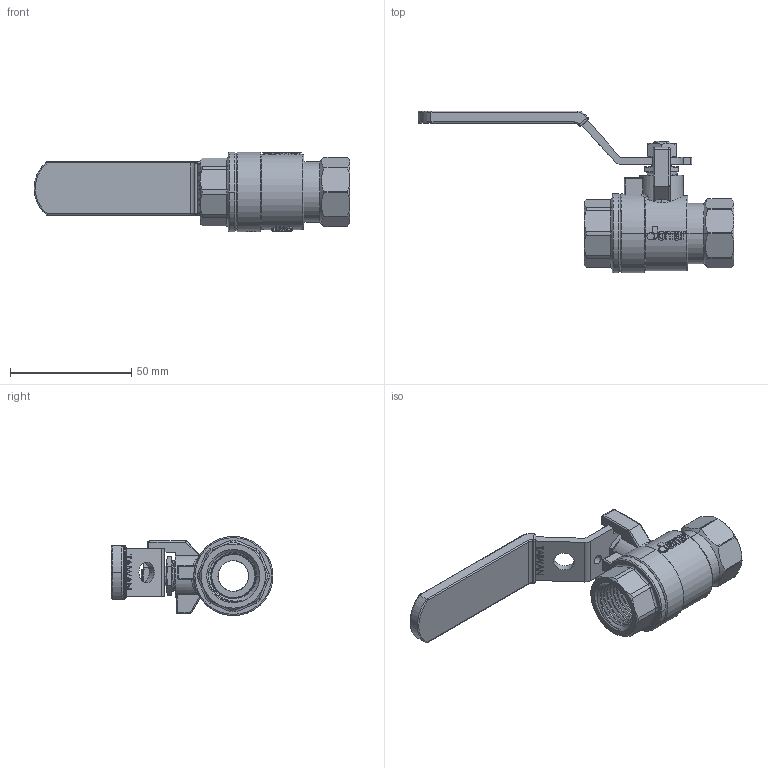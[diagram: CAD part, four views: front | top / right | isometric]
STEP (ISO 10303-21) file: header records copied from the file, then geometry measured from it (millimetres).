
FILE_DESCRIPTION (( 'STEP AP203' ), '1' );
FILE_NAME ('ABL703-µL±¾Âê-0.5''''JOMAR²y»ÖÅé²Õ¦X-2025.STEP', '2025-06-25T06:32:08', ( '' ), ( '' ), 'SwSTEP 2.0', 'SolidWorks 2018', '' );
FILE_SCHEMA (( 'CONFIG_CONTROL_DESIGN' ));
Length unit declared in the file: millimetre
Products named in the file (13): BBL703-0.5''''JOMAR球閥體-無鉛-端面無插溝; DN15-CBL703-HANDLE & SLEEVE 組合(白色T膠套); GBL211; RBL263; CBL211; ABL703-無掛鎖-0.5''''JOMAR球閥體組合-2025; BBL703A-0.5''''JOMAR球閥八角頭-無鉛-端面無插溝; DN15-CBL211白色膠套-T-200CSSG; EBL203B; EBL203A; TBL163-無鑽孔; NBL262; EBL203
Assembly tree (13 placements, depth 3):
  ABL703-無掛鎖-0.5''''JOMAR球閥體組合-2025
    BBL703-0.5''''JOMAR球閥體-無鉛-端面無插溝
    EBL203A
    EBL203B
    GBL211
    RBL263
    TBL163-無鑽孔
    BBL703A-0.5''''JOMAR球閥八角頭-無鉛-端面無插溝
    EBL203  x2
    NBL262
    DN15-CBL703-HANDLE & SLEEVE 組合(白色T膠套)
      CBL211
      DN15-CBL211白色膠套-T-200CSSG
Bounding box: 130.45 x 66.86 x 32.7 mm (x, y, z)
Volume: 40301.1 mm3; surface area: 35718.7 mm2
Topology: 12 solids, 12 shells, 2294 faces, 6138 edges, 4039 vertices
Faces by surface type: plane 1179, bspline 676, cylinder 276, cone 121, torus 34, sphere 8
Entity records: 128267 total; most frequent: CARTESIAN_POINT 75338, ORIENTED_EDGE 12200, DIRECTION 8002, EDGE_CURVE 6100, VERTEX_POINT 4021, VECTOR 3706, LINE 3706, EDGE_LOOP 2487
